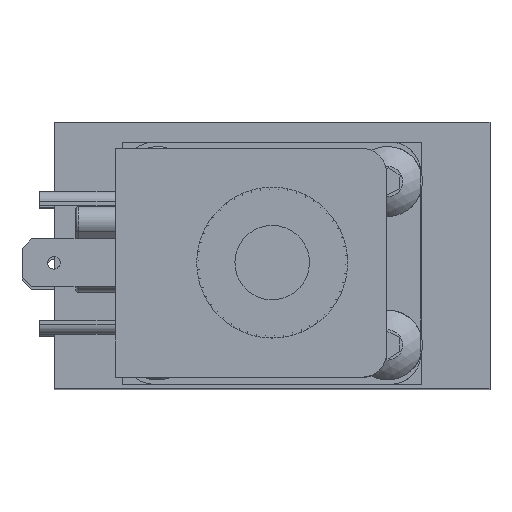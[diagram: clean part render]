
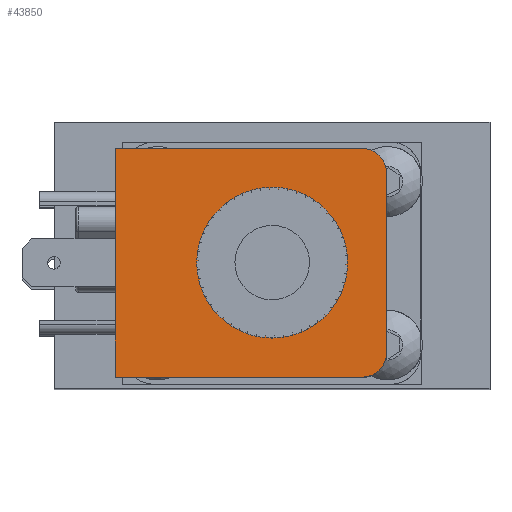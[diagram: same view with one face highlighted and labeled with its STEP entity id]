
A CAD part, top view. The second image highlights one B-rep face of the part: STEP entity #43850.
In plain terms, the highlighted planar face has unit normal (0, 0, 1).
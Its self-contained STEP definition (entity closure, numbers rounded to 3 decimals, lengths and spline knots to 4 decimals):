
#1508=FACE_BOUND('',#7233,.T.);
#1509=FACE_BOUND('',#7234,.T.);
#1510=FACE_BOUND('',#7235,.T.);
#1511=FACE_BOUND('',#7236,.T.);
#1512=FACE_BOUND('',#7237,.T.);
#2446=PLANE('',#47784);
#4614=FACE_OUTER_BOUND('',#7232,.T.);
#7232=EDGE_LOOP('',(#35916,#35917,#35918,#35919,#35920,#35921));
#7233=EDGE_LOOP('',(#35922,#35923,#35924,#35925));
#7234=EDGE_LOOP('',(#35926,#35927,#35928,#35929));
#7235=EDGE_LOOP('',(#35930,#35931,#35932,#35933));
#7236=EDGE_LOOP('',(#35934,#35935,#35936,#35937));
#7237=EDGE_LOOP('',(#35938));
#9470=CIRCLE('',#47785,0.3175);
#9471=CIRCLE('',#47786,0.3175);
#9472=CIRCLE('',#47787,0.8001);
#12471=LINE('',#75306,#15804);
#12494=LINE('',#75373,#15827);
#12495=LINE('',#75376,#15828);
#12496=LINE('',#75377,#15829);
#12497=LINE('',#75380,#15830);
#12498=LINE('',#75382,#15831);
#12499=LINE('',#75384,#15832);
#12500=LINE('',#75385,#15833);
#12501=LINE('',#75388,#15834);
#12502=LINE('',#75390,#15835);
#12503=LINE('',#75392,#15836);
#12504=LINE('',#75393,#15837);
#12505=LINE('',#75396,#15838);
#12506=LINE('',#75398,#15839);
#12507=LINE('',#75400,#15840);
#12508=LINE('',#75401,#15841);
#12509=LINE('',#75404,#15842);
#12510=LINE('',#75406,#15843);
#12511=LINE('',#75408,#15844);
#12512=LINE('',#75409,#15845);
#15804=VECTOR('',#57963,1.);
#15827=VECTOR('',#58008,1.);
#15828=VECTOR('',#58011,1.);
#15829=VECTOR('',#58012,1.);
#15830=VECTOR('',#58013,1.);
#15831=VECTOR('',#58014,1.);
#15832=VECTOR('',#58015,1.);
#15833=VECTOR('',#58016,1.);
#15834=VECTOR('',#58017,1.);
#15835=VECTOR('',#58018,1.);
#15836=VECTOR('',#58019,1.);
#15837=VECTOR('',#58020,1.);
#15838=VECTOR('',#58021,1.);
#15839=VECTOR('',#58022,1.);
#15840=VECTOR('',#58023,1.);
#15841=VECTOR('',#58024,1.);
#15842=VECTOR('',#58025,1.);
#15843=VECTOR('',#58026,1.);
#15844=VECTOR('',#58027,1.);
#15845=VECTOR('',#58028,1.);
#19567=VERTEX_POINT('',#75302);
#19569=VERTEX_POINT('',#75305);
#19600=VERTEX_POINT('',#75369);
#19601=VERTEX_POINT('',#75370);
#19602=VERTEX_POINT('',#75372);
#19603=VERTEX_POINT('',#75374);
#19604=VERTEX_POINT('',#75378);
#19605=VERTEX_POINT('',#75379);
#19606=VERTEX_POINT('',#75381);
#19607=VERTEX_POINT('',#75383);
#19608=VERTEX_POINT('',#75386);
#19609=VERTEX_POINT('',#75387);
#19610=VERTEX_POINT('',#75389);
#19611=VERTEX_POINT('',#75391);
#19612=VERTEX_POINT('',#75394);
#19613=VERTEX_POINT('',#75395);
#19614=VERTEX_POINT('',#75397);
#19615=VERTEX_POINT('',#75399);
#19616=VERTEX_POINT('',#75402);
#19617=VERTEX_POINT('',#75403);
#19618=VERTEX_POINT('',#75405);
#19619=VERTEX_POINT('',#75407);
#19620=VERTEX_POINT('',#75410);
#25180=EDGE_CURVE('',#19569,#19567,#12471,.T.);
#25212=EDGE_CURVE('',#19600,#19601,#9470,.T.);
#25213=EDGE_CURVE('',#19602,#19600,#12494,.T.);
#25214=EDGE_CURVE('',#19603,#19602,#9471,.T.);
#25215=EDGE_CURVE('',#19603,#19569,#12495,.T.);
#25216=EDGE_CURVE('',#19601,#19567,#12496,.T.);
#25217=EDGE_CURVE('',#19604,#19605,#12497,.T.);
#25218=EDGE_CURVE('',#19605,#19606,#12498,.T.);
#25219=EDGE_CURVE('',#19606,#19607,#12499,.T.);
#25220=EDGE_CURVE('',#19607,#19604,#12500,.T.);
#25221=EDGE_CURVE('',#19608,#19609,#12501,.T.);
#25222=EDGE_CURVE('',#19609,#19610,#12502,.T.);
#25223=EDGE_CURVE('',#19610,#19611,#12503,.T.);
#25224=EDGE_CURVE('',#19611,#19608,#12504,.T.);
#25225=EDGE_CURVE('',#19612,#19613,#12505,.T.);
#25226=EDGE_CURVE('',#19613,#19614,#12506,.T.);
#25227=EDGE_CURVE('',#19614,#19615,#12507,.T.);
#25228=EDGE_CURVE('',#19615,#19612,#12508,.T.);
#25229=EDGE_CURVE('',#19616,#19617,#12509,.T.);
#25230=EDGE_CURVE('',#19617,#19618,#12510,.T.);
#25231=EDGE_CURVE('',#19618,#19619,#12511,.T.);
#25232=EDGE_CURVE('',#19619,#19616,#12512,.T.);
#25233=EDGE_CURVE('',#19620,#19620,#9472,.T.);
#35916=ORIENTED_EDGE('',*,*,#25212,.F.);
#35917=ORIENTED_EDGE('',*,*,#25213,.F.);
#35918=ORIENTED_EDGE('',*,*,#25214,.F.);
#35919=ORIENTED_EDGE('',*,*,#25215,.T.);
#35920=ORIENTED_EDGE('',*,*,#25180,.T.);
#35921=ORIENTED_EDGE('',*,*,#25216,.F.);
#35922=ORIENTED_EDGE('',*,*,#25217,.T.);
#35923=ORIENTED_EDGE('',*,*,#25218,.T.);
#35924=ORIENTED_EDGE('',*,*,#25219,.T.);
#35925=ORIENTED_EDGE('',*,*,#25220,.T.);
#35926=ORIENTED_EDGE('',*,*,#25221,.T.);
#35927=ORIENTED_EDGE('',*,*,#25222,.T.);
#35928=ORIENTED_EDGE('',*,*,#25223,.T.);
#35929=ORIENTED_EDGE('',*,*,#25224,.T.);
#35930=ORIENTED_EDGE('',*,*,#25225,.T.);
#35931=ORIENTED_EDGE('',*,*,#25226,.T.);
#35932=ORIENTED_EDGE('',*,*,#25227,.T.);
#35933=ORIENTED_EDGE('',*,*,#25228,.T.);
#35934=ORIENTED_EDGE('',*,*,#25229,.T.);
#35935=ORIENTED_EDGE('',*,*,#25230,.T.);
#35936=ORIENTED_EDGE('',*,*,#25231,.T.);
#35937=ORIENTED_EDGE('',*,*,#25232,.T.);
#35938=ORIENTED_EDGE('',*,*,#25233,.T.);
#43850=ADVANCED_FACE('',(#4614,#1508,#1509,#1510,#1511,#1512),#2446,.T.);
#47784=AXIS2_PLACEMENT_3D('',#75368,#58004,#58005);
#47785=AXIS2_PLACEMENT_3D('',#75371,#58006,#58007);
#47786=AXIS2_PLACEMENT_3D('',#75375,#58009,#58010);
#47787=AXIS2_PLACEMENT_3D('',#75411,#58029,#58030);
#57963=DIRECTION('',(0.,-1.,0.));
#58004=DIRECTION('center_axis',(0.,0.,
1.));
#58005=DIRECTION('ref_axis',(-1.,0.,0.));
#58006=DIRECTION('center_axis',(0.,0.,
-1.));
#58007=DIRECTION('ref_axis',(0.707,-0.707,0.));
#58008=DIRECTION('',(0.,-1.,0.));
#58009=DIRECTION('center_axis',(0.,0.,
-1.));
#58010=DIRECTION('ref_axis',(0.707,0.707,0.));
#58011=DIRECTION('',(-1.,0.,0.));
#58012=DIRECTION('',(-1.,0.,0.));
#58013=DIRECTION('',(-0.866,-0.5,0.));
#58014=DIRECTION('',(-0.5,0.866,0.));
#58015=DIRECTION('',(0.866,0.5,0.));
#58016=DIRECTION('',(0.5,-0.866,0.));
#58017=DIRECTION('',(-0.866,0.5,0.));
#58018=DIRECTION('',(0.5,0.866,0.));
#58019=DIRECTION('',(0.866,-0.5,0.));
#58020=DIRECTION('',(-0.5,-0.866,0.));
#58021=DIRECTION('',(0.94,-0.342,0.));
#58022=DIRECTION('',(-0.342,-0.94,0.));
#58023=DIRECTION('',(-0.94,0.342,0.));
#58024=DIRECTION('',(0.342,0.94,0.));
#58025=DIRECTION('',(0.94,0.342,0.));
#58026=DIRECTION('',(0.342,-0.94,0.));
#58027=DIRECTION('',(-0.94,-0.342,0.));
#58028=DIRECTION('',(-0.342,0.94,0.));
#58029=DIRECTION('center_axis',(0.,0.,
-1.));
#58030=DIRECTION('ref_axis',(1.,0.,0.));
#75302=CARTESIAN_POINT('',(-2.0614,-1.5,12.4646));
#75305=CARTESIAN_POINT('',(-2.0614,1.5,12.4646));
#75306=CARTESIAN_POINT('',(-2.0614,1.5,12.4646));
#75368=CARTESIAN_POINT('Origin',(1.4986,1.5,12.4646));
#75369=CARTESIAN_POINT('',(1.4986,-1.1825,12.4646));
#75370=CARTESIAN_POINT('',(1.1811,-1.5,12.4646));
#75371=CARTESIAN_POINT('Origin',(1.1811,-1.1825,12.4646));
#75372=CARTESIAN_POINT('',(1.4986,1.1825,12.4646));
#75373=CARTESIAN_POINT('',(1.4986,1.5,12.4646));
#75374=CARTESIAN_POINT('',(1.1811,1.5,12.4646));
#75375=CARTESIAN_POINT('Origin',(1.1811,1.1825,12.4646));
#75376=CARTESIAN_POINT('',(1.4986,1.5,12.4646));
#75377=CARTESIAN_POINT('',(1.4986,-1.5,12.4646));
#75378=CARTESIAN_POINT('',(-0.6614,-0.5359,12.4646));
#75379=CARTESIAN_POINT('',(-0.7714,-0.5994,12.4646));
#75380=CARTESIAN_POINT('',(0.5894,0.1863,12.4646));
#75381=CARTESIAN_POINT('',(-0.9048,-0.3684,12.4646));
#75382=CARTESIAN_POINT('',(-0.9422,-0.3036,12.4646));
#75383=CARTESIAN_POINT('',(-0.7948,-0.3049,12.4646));
#75384=CARTESIAN_POINT('',(0.401,0.3855,12.4646));
#75385=CARTESIAN_POINT('',(-0.8989,-0.1246,12.4646));
#75386=CARTESIAN_POINT('',(-0.7948,0.3049,12.4646));
#75387=CARTESIAN_POINT('',(-0.9048,0.3684,12.4646));
#75388=CARTESIAN_POINT('',(-0.1935,-0.0423,12.4646));
#75389=CARTESIAN_POINT('',(-0.7714,0.5994,12.4646));
#75390=CARTESIAN_POINT('',(-0.3593,1.3131,12.4646));
#75391=CARTESIAN_POINT('',(-0.6614,0.5359,12.4646));
#75392=CARTESIAN_POINT('',(-0.1152,0.2205,12.4646));
#75393=CARTESIAN_POINT('',(-0.1827,1.3651,12.4646));
#75394=CARTESIAN_POINT('',(0.8356,-0.1622,12.4646));
#75395=CARTESIAN_POINT('',(0.955,-0.2057,12.4646));
#75396=CARTESIAN_POINT('',(0.8612,-0.1716,12.4646));
#75397=CARTESIAN_POINT('',(0.8638,-0.4563,12.4646));
#75398=CARTESIAN_POINT('',(1.2609,0.6348,12.4646));
#75399=CARTESIAN_POINT('',(0.7444,-0.4129,12.4646));
#75400=CARTESIAN_POINT('',(0.8297,-0.4439,12.4646));
#75401=CARTESIAN_POINT('',(1.0959,0.5529,12.4646));
#75402=CARTESIAN_POINT('',(0.7444,0.4129,12.4646));
#75403=CARTESIAN_POINT('',(0.8638,0.4563,12.4646));
#75404=CARTESIAN_POINT('',(1.2521,0.5976,12.4646));
#75405=CARTESIAN_POINT('',(0.955,0.2057,12.4646));
#75406=CARTESIAN_POINT('',(0.7332,0.8151,12.4646));
#75407=CARTESIAN_POINT('',(0.8356,0.1622,12.4646));
#75408=CARTESIAN_POINT('',(1.403,0.3687,12.4646));
#75409=CARTESIAN_POINT('',(0.6594,0.6463,12.4646));
#75410=CARTESIAN_POINT('',(-0.8001,0.,12.4646));
#75411=CARTESIAN_POINT('Origin',(0.,0.,
12.4646));
